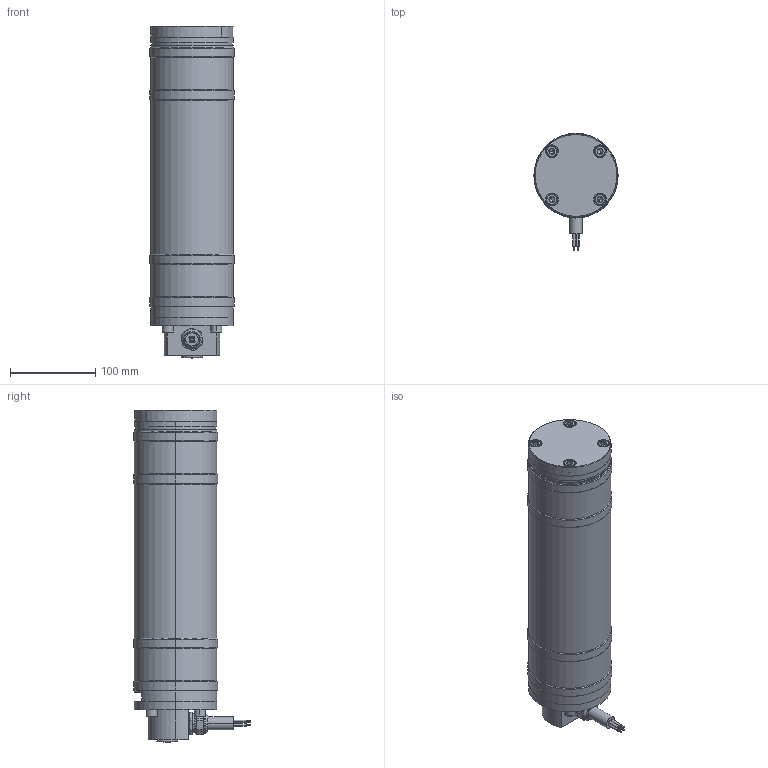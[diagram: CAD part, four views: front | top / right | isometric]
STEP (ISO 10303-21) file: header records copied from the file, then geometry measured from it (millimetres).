
FILE_DESCRIPTION (( 'STEP AP214' ), '1' );
FILE_NAME ('KOSD-101 1 MN Load Cell.STEP', '2021-03-15T10:47:21', ( '' ), ( '' ), 'SwSTEP 2.0', 'SolidWorks 2021', '' );
FILE_SCHEMA (( 'AUTOMOTIVE_DESIGN' ));
Length unit declared in the file: millimetre
Products named in the file (8): Wiberger-din912_m8x20; 5190196; pg16  RFOU; RFOU; KOSD-101 1 MN Load Cell; 6369853; Pg16 - Lock - 700782; 4090180
Assembly tree (14 placements, depth 2):
  KOSD-101 1 MN Load Cell
    4090180
    5190196
    6369853
    Pg16 - Lock - 700782
    pg16  RFOU
    RFOU
    Wiberger-din912_m8x20  x8
Bounding box: 99 x 137.28 x 389.92 mm (x, y, z)
Volume: 2642638.4 mm3; surface area: 190355.9 mm2
Topology: 14 solids, 14 shells, 478 faces, 960 edges, 539 vertices
Faces by surface type: plane 179, cylinder 161, cone 110, bspline 22, torus 4, sphere 2
Entity records: 8491 total; most frequent: CARTESIAN_POINT 1721, DIRECTION 1421, ORIENTED_EDGE 1142, AXIS2_PLACEMENT_3D 602, EDGE_CURVE 571, VERTEX_POINT 350, CIRCLE 325, EDGE_LOOP 323
